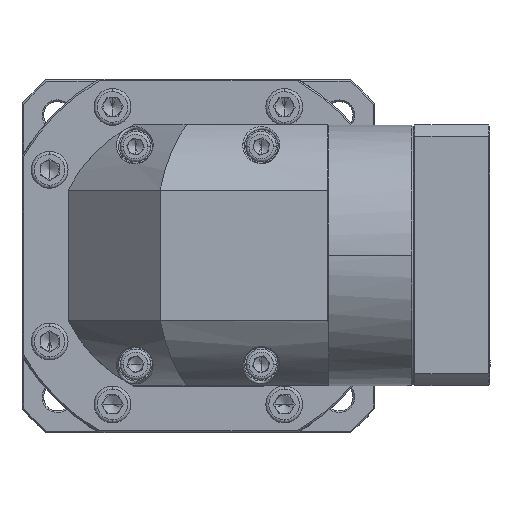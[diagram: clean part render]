
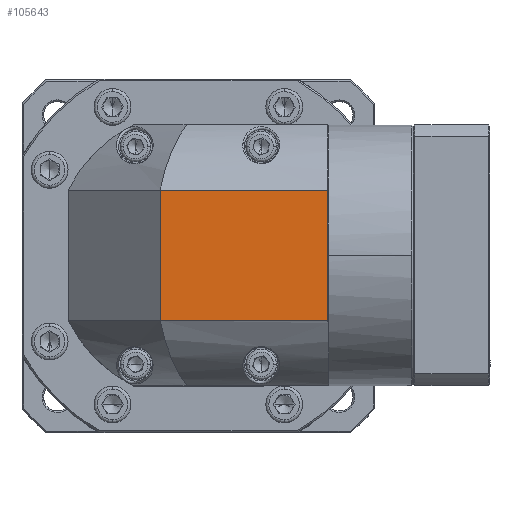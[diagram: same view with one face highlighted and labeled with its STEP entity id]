
A CAD part, top view. The second image highlights one B-rep face of the part: STEP entity #105643.
In plain terms, the highlighted planar face has unit normal (0, 0, 1).
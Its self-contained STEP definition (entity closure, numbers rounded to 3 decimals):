
#967 = CARTESIAN_POINT ( 'NONE',  ( 30.565, 58.426, 46.266 ) ) ;
#6184 = CARTESIAN_POINT ( 'NONE',  ( 85.065, 58.426, 46.266 ) ) ;
#11397 = VERTEX_POINT ( 'NONE', #967 ) ;
#14829 = ORIENTED_EDGE ( 'NONE', *, *, #40957, .F. ) ;
#21188 = CARTESIAN_POINT ( 'NONE',  ( -14.935, 58.426, 46.266 ) ) ;
#22976 = VECTOR ( 'NONE', #76306, 1000. ) ;
#24554 = VERTEX_POINT ( 'NONE', #55581 ) ;
#25347 = EDGE_CURVE ( 'NONE', #92208, #24554, #126829, .T. ) ;
#33604 = DIRECTION ( 'NONE',  ( 0., 1., 0. ) ) ;
#39214 = CARTESIAN_POINT ( 'NONE',  ( 30.565, 100.853, 46.266 ) ) ;
#40957 = EDGE_CURVE ( 'NONE', #87879, #24554, #137761, .T. ) ;
#44164 = CARTESIAN_POINT ( 'NONE',  ( 30.565, 79.639, 46.266 ) ) ;
#47098 = EDGE_CURVE ( 'NONE', #92208, #11397, #77912, .T. ) ;
#47625 = VECTOR ( 'NONE', #33604, 1000. ) ;
#52442 = CARTESIAN_POINT ( 'NONE',  ( 85.065, 79.639, 46.266 ) ) ;
#54837 = VECTOR ( 'NONE', #140543, 1000. ) ;
#55581 = CARTESIAN_POINT ( 'NONE',  ( 85.065, 100.853, 46.266 ) ) ;
#57925 = DIRECTION ( 'NONE',  ( 1., 0., 0. ) ) ;
#59115 = AXIS2_PLACEMENT_3D ( 'NONE', #101144, #68518, #90612 ) ;
#68518 = DIRECTION ( 'NONE',  ( 0., 0., 1. ) ) ;
#71218 = ORIENTED_EDGE ( 'NONE', *, *, #25347, .T. ) ;
#76306 = DIRECTION ( 'NONE',  ( -1., 0., 0. ) ) ;
#77912 = LINE ( 'NONE', #21188, #22976 ) ;
#78176 = PLANE ( 'NONE',  #59115 ) ;
#82583 = ORIENTED_EDGE ( 'NONE', *, *, #124737, .F. ) ;
#87879 = VERTEX_POINT ( 'NONE', #39214 ) ;
#90612 = DIRECTION ( 'NONE',  ( 1., 0., 0. ) ) ;
#92208 = VERTEX_POINT ( 'NONE', #6184 ) ;
#93076 = FACE_OUTER_BOUND ( 'NONE', #98544, .T. ) ;
#98544 = EDGE_LOOP ( 'NONE', ( #14829, #82583, #138865, #71218 ) ) ;
#101144 = CARTESIAN_POINT ( 'NONE',  ( 43.065, 79.639, 46.266 ) ) ;
#102476 = CARTESIAN_POINT ( 'NONE',  ( -14.935, 100.853, 46.266 ) ) ;
#105643 = ADVANCED_FACE ( 'NONE', ( #93076 ), #78176, .T. ) ;
#108604 = VECTOR ( 'NONE', #57925, 1000. ) ;
#124737 = EDGE_CURVE ( 'NONE', #11397, #87879, #138605, .T. ) ;
#126829 = LINE ( 'NONE', #52442, #54837 ) ;
#137761 = LINE ( 'NONE', #102476, #108604 ) ;
#138605 = LINE ( 'NONE', #44164, #47625 ) ;
#138865 = ORIENTED_EDGE ( 'NONE', *, *, #47098, .F. ) ;
#140543 = DIRECTION ( 'NONE',  ( 0., 1., 0. ) ) ;
